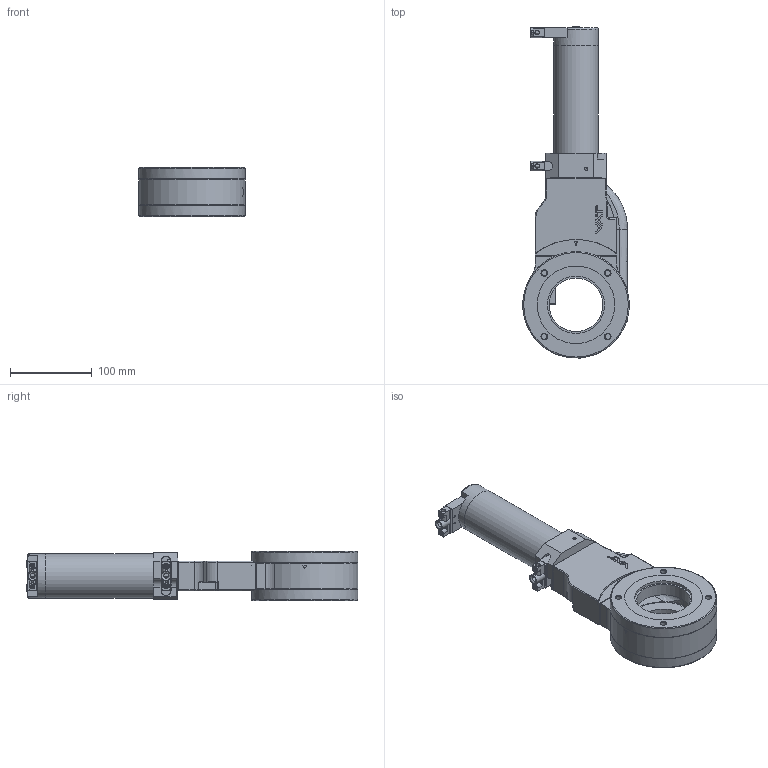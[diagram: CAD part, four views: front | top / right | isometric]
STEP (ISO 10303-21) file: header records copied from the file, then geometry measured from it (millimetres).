
FILE_DESCRIPTION(/* description */ (''),/* implementation_level */ '2;1');
FILE_NAME(/* name */ '1272347690_203',/* time_stamp */ '2009-11-02T13:36:12+01:00',/* author */ (''),/* organization */ (''),/* preprocessor_version */ 'ST-DEVELOPER v11',/* originating_system */ 'UGS - NX 5.0',/* authorisation */ '');
FILE_SCHEMA (('CONFIG_CONTROL_DESIGN'));
Length unit declared in the file: millimetre
Products named in the file (32): N-8406-013_3.2; N-8406-013_2.1; 73662-01.1; 202839_1.2; N-6121-039.1; N-6099-417.1; 251093.3; N-6121-027.2; 77379-01.1; T-9001-055.1; N-6016-478.2; 80477-01.1; N-7100-005_2.1; 92838-01_1.2; 80478-01.1; N-6195-007.2; 93115-01.1; 87105-01.1; n-6134-407; 253166.7; 251094.1; 224795.1; 251289.1; 252351.1; 313018.1; 253165.8; 251092.4; N-8406-013_1_1.4; 78856-R1.3; 78855-r1.9; 87090-R1.22; 256858.17
Assembly tree (39 placements, depth 5):
  256858.17
    253165.8
    87090-R1.22
      87105-01.1
      93115-01.1
      N-6195-007.2
      80478-01.1
      92838-01_1.2
      N-7100-005_2.1
      80477-01.1
    313018.1  x2
    252351.1
    251289.1
    224795.1  x2
    78855-r1.9  x2
      N-6016-478.2
      T-9001-055.1
      78856-R1.3
        N-6099-417.1  x2
        N-6121-039.1
        202839_1.2
        73662-01.1
        N-8406-013_1_1.4
          N-8406-013_2.1
          202839_1.2
          N-8406-013_3.2
      77379-01.1
    251092.4
      N-6121-027.2  x2
      251093.3
    251094.1
    253166.7
    n-6134-407  x2
Bounding box: 130.6 x 406.45 x 60 mm (x, y, z)
Volume: 1090873 mm3; surface area: 266228.9 mm2
Topology: 53 solids, 53 shells, 1719 faces, 4231 edges, 2696 vertices
Faces by surface type: plane 919, cylinder 462, bspline 110, cone 94, torus 87, extrusion 37, sphere 8, revolution 2
Full cylindrical faces by diameter (mm): 1.4 x4, 1.5 x4, 1.875 x1, 2 x4, 2.115 x8, 2.3 x2, 2.475 x3, 2.5 x6, 2.56 x1, 2.575 x1, 3 x6, 3.3 x1, 3.5 x10, 4.16 x2, 4.2 x13, 4.3 x2, 4.7 x2, 5 x8, 5.1 x3, 5.3 x2, 5.5 x6, 5.6 x1, 5.65 x1, 5.7 x1, 5.8 x2, 6.2 x2, 6.475 x2, 6.5 x1, 6.511 x2, 6.8 x10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
Entity records: 47524 total; most frequent: CARTESIAN_POINT 14361, DIRECTION 5932, ORIENTED_EDGE 5838, EDGE_CURVE 2919, AXIS2_PLACEMENT_3D 2204, VERTEX_POINT 2002, EDGE_LOOP 1716, VECTOR 1523
